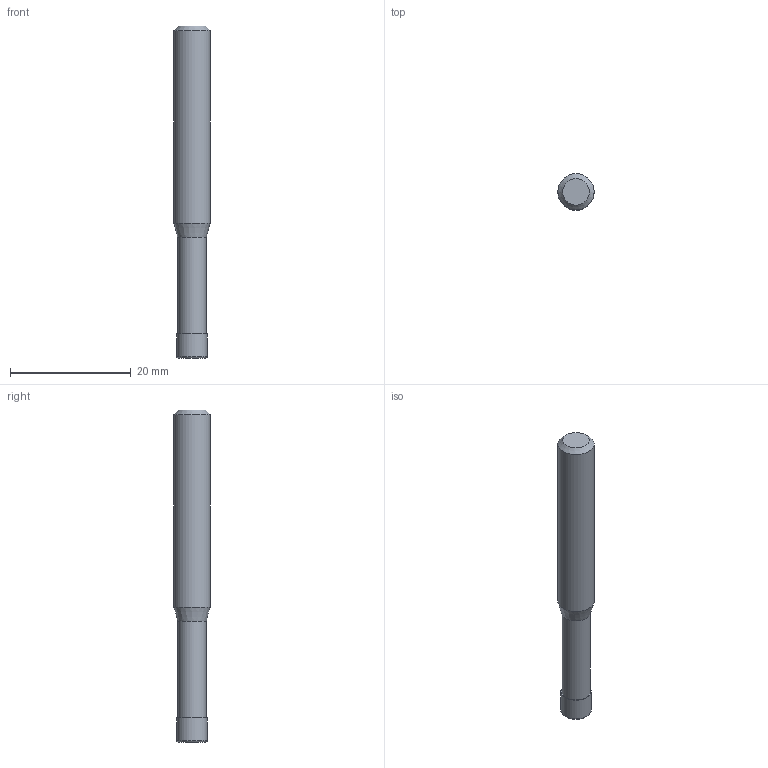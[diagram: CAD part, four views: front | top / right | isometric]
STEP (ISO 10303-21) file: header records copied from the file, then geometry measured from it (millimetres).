
FILE_DESCRIPTION((''),'2;1');
FILE_NAME('C:\Users\nsx150\AppData\Local\Temp\Mastercam 2021\8MCJJJGUOI\TEMP.step','2022-10-12T10:46:26',(''),(''),'STEP Write','Mastercam 2021 ... CNC Software, Inc.','');
FILE_SCHEMA(('AUTOMOTIVE_DESIGN'));
Length unit declared in the file: millimetre
Products named in the file (1): None
Bounding box: 6 x 6 x 55 mm (x, y, z)
Volume: 1333.3 mm3; surface area: 1032.4 mm2
Topology: 2 solids, 2 shells, 10 faces, 14 edges, 8 vertices
Faces by surface type: plane 4, cylinder 3, cone 2, torus 1
Full cylindrical faces by diameter (mm): 4.75 x1, 5 x1, 6 x1
Entity records: 232 total; most frequent: DIRECTION 40, CARTESIAN_POINT 28, AXIS2_PLACEMENT_3D 20, ORIENTED_EDGE 16, EDGE_LOOP 16, STYLED_ITEM 13, ADVANCED_FACE 10, FACE_BOUND 10
